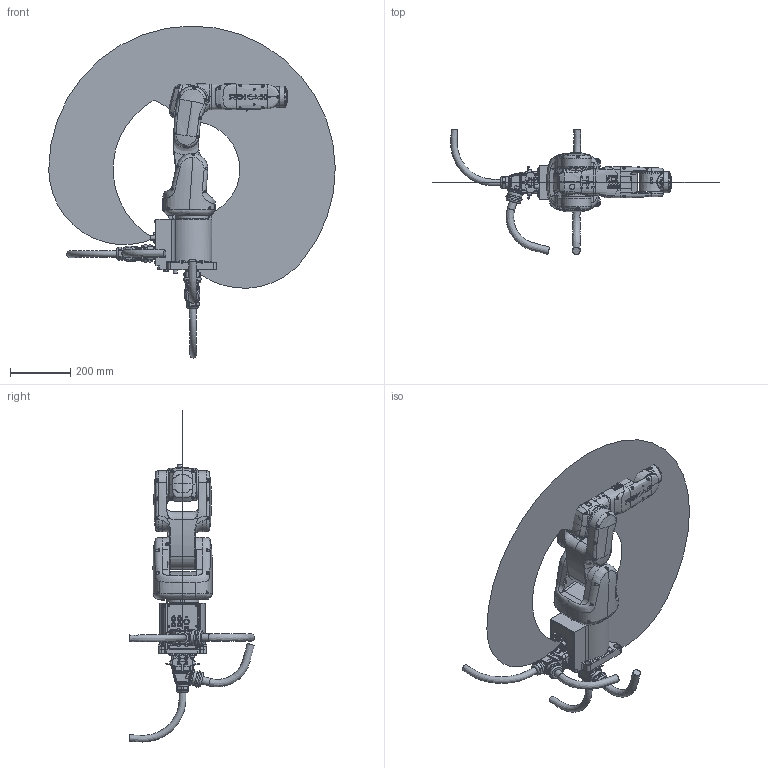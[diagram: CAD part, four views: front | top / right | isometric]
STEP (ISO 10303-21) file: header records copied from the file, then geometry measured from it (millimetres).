
FILE_DESCRIPTION(/* description */ (''),/* implementation_level */ '2;1');
FILE_NAME(/* name */ 'NB4s-R475 简化模型(20200429).stp',/* time_stamp */ '2022-05-06T19:02:12+08:00',/* author */ (''),/* organization */ (''),/* preprocessor_version */ 'ST-DEVELOPER v16',/* originating_system */ 'SIEMENS PLM Software NX 10.0',/* authorisation */ '');
FILE_SCHEMA (('CONFIG_CONTROL_DESIGN'));
Products named in the file (9): NB4-3Dwork-A; NB4-shuchu-A; NB4-base-A; NB4-xiaobihou-A; NB4-shouwan-A; NB4-xiaobiqian-Alogo; NB4-dabi-A; NB4-yao-A; NB4s-R475 简化模型(20200429)
Assembly tree (8 placements, depth 2):
  NB4s-R475 简化模型(20200429)
    NB4-yao-A
    NB4-dabi-A
    NB4-xiaobiqian-Alogo
    NB4-shouwan-A
    NB4-xiaobihou-A
    NB4-base-A
    NB4-shuchu-A
    NB4-3Dwork-A
Bounding box: 950.04 x 414.28 x 1100.76 mm (x, y, z)
Volume: 14641111.3 mm3; surface area: 1492650 mm2
Topology: 16 solids, 96 shells, 4654 faces, 11936 edges, 7678 vertices
Faces by surface type: plane 1592, cylinder 1269, bspline 716, extrusion 521, cone 338, torus 196, sphere 22
Full cylindrical faces by diameter (mm): 2.5 x8, 3 x8, 3.2 x3, 3.3 x8, 3.5 x4, 3.838 x11, 4.3 x1, 4.5 x9, 4.8 x8, 5 x12, 5.1 x8, 5.5 x29, 5.6 x56, 6 x6, 7 x14, 8 x1, 8.7 x1, 8.8 x2, 9 x8, 9.5 x1, 10 x1, 11 x8, 12 x3, 13 x8, 13.5 x1, 14.3 x1, 15 x1, 17.5 x1, 18.5 x1, 20 x4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
Entity records: 804427 total; most frequent: CARTESIAN_POINT 701835, ORIENTED_EDGE 22308, DIRECTION 17772, EDGE_CURVE 11157, VERTEX_POINT 7457, AXIS2_PLACEMENT_3D 6498, EDGE_LOOP 5448, VECTOR 4776
